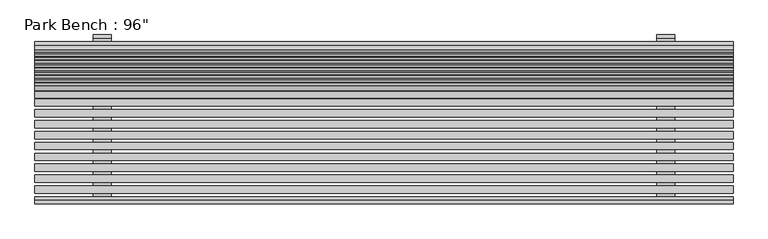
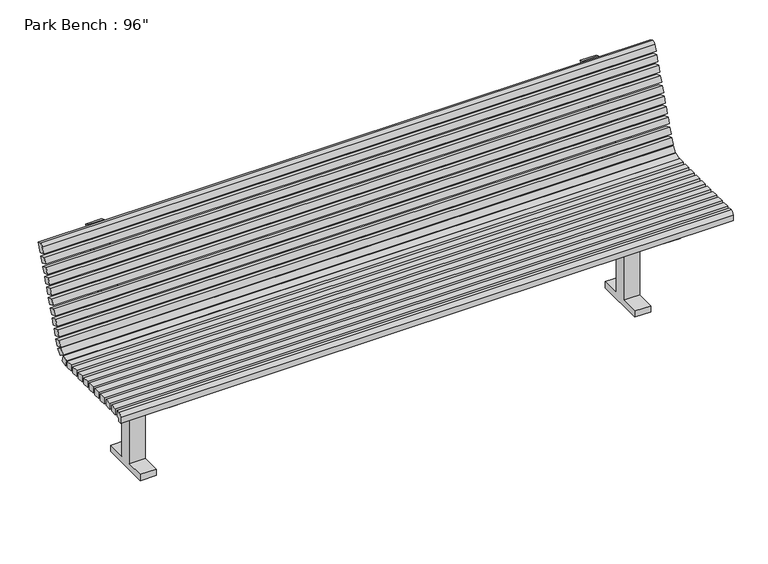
"""IFC4 building model written with IfcOpenShell, lengths in millimetres: geographic element geometry."""

from ifc_helpers import new_model, si_unit, point, frame, frame_2d, origin, place, context, project, spatial, polyline, circle_curve, trimmed, segment, composite_curve, outline, extrude, source, transform, mapped, element, save


def geographic_element_83f40e2b(model_context):
    return source(origin(), model_context, "Body", "SweptSolid", [
        extrude(outline(polyline([(1219.2, -255.4337104), (1219.2, -280.8337104), (-1219.2, -280.8337104), (-1219.2, -255.4337104), (1219.2, -255.4337104)])), frame((0.0, 0.0, 457.2), z_axis=(0.0, 0.0, 1.0), x_axis=(1.0, 0.0, 0.0)), (0.0, 0.0, 1.0), 25.4),
        extrude(outline(polyline([(1219.2, -217.3337104), (1219.2, -242.7337104), (-1219.2, -242.7337104), (-1219.2, -217.3337104), (1219.2, -217.3337104)])), frame((0.0, 0.0, 457.2), z_axis=(0.0, 0.0, 1.0), x_axis=(1.0, 0.0, 0.0)), (0.0, 0.0, 1.0), 25.4),
        extrude(outline(polyline([(1219.2, -179.2337104), (1219.2, -204.6337104), (-1219.2, -204.6337104), (-1219.2, -179.2337104), (1219.2, -179.2337104)])), frame((0.0, 0.0, 457.2), z_axis=(0.0, 0.0, 1.0), x_axis=(1.0, 0.0, 0.0)), (0.0, 0.0, 1.0), 25.4),
        extrude(outline(polyline([(1219.2, -141.1337104), (1219.2, -166.5337104), (-1219.2, -166.5337104), (-1219.2, -141.1337104), (1219.2, -141.1337104)])), frame((0.0, 0.0, 457.2), z_axis=(0.0, 0.0, 1.0), x_axis=(1.0, 0.0, 0.0)), (0.0, 0.0, 1.0), 25.4),
        extrude(outline(polyline([(1219.2, -103.0337104), (1219.2, -128.4337104), (-1219.2, -128.4337104), (-1219.2, -103.0337104), (1219.2, -103.0337104)])), frame((0.0, 0.0, 457.2), z_axis=(0.0, 0.0, 1.0), x_axis=(1.0, 0.0, 0.0)), (0.0, 0.0, 1.0), 25.4),
        extrude(outline(polyline([(1219.2, -64.9337104), (1219.2, -90.3337104), (-1219.2, -90.3337104), (-1219.2, -64.9337104), (1219.2, -64.9337104)])), frame((0.0, 0.0, 457.2), z_axis=(0.0, 0.0, 1.0), x_axis=(1.0, 0.0, 0.0)), (0.0, 0.0, 1.0), 25.4),
        extrude(outline(polyline([(1219.2, -26.8337104), (1219.2, -52.2337104), (-1219.2, -52.2337104), (-1219.2, -26.8337104), (1219.2, -26.8337104)])), frame((0.0, 0.0, 457.2), z_axis=(0.0, 0.0, 1.0), x_axis=(1.0, 0.0, 0.0)), (0.0, 0.0, 1.0), 25.4),
        extrude(outline(polyline([(1219.2, 11.2662896), (1219.2, -14.1337104), (-1219.2, -14.1337104), (-1219.2, 11.2662896), (1219.2, 11.2662896)])), frame((0.0, 0.0, 457.2), z_axis=(0.0, 0.0, 1.0), x_axis=(1.0, 0.0, 0.0)), (0.0, 0.0, 1.0), 25.4),
        extrude(outline(polyline([(1219.2, 49.3662896), (1219.2, 23.9662896), (-1219.2, 23.9662896), (-1219.2, 49.3662896), (1219.2, 49.3662896)])), frame((0.0, 0.0, 457.2), z_axis=(0.0, 0.0, 1.0), x_axis=(1.0, 0.0, 0.0)), (0.0, 0.0, 1.0), 25.4),
        extrude(outline(composite_curve([segment(polyline([(-304.8, 457.2), (-304.8, 444.5), (-318.9337104, 444.5), (-318.9337104, 468.3125)]), True, "CONTINUOUS"), segment(trimmed(circle_curve(frame_2d((-304.6462104, 468.3125)), 14.2875), [point((-318.9337104, 468.3125))], [point((-304.6462104, 482.6))], False, "CARTESIAN"), True, "CONTINUOUS"), segment(polyline([(-304.6462104, 482.6), (-293.5337104, 482.6), (-293.5337104, 457.2), (-304.8, 457.2)]), True, "CONTINUOUS")], self_intersect=False)), frame((-1219.2, 0.0, 0.0), z_axis=(1.0, 0.0, 0.0), x_axis=(0.0, 1.0, 0.0)), (0.0, 0.0, 1.0), 2438.4),
        extrude(outline(polyline([(0.0, -25.4), (0.0, 0.0), (2438.4, 0.0), (2438.4, -25.4), (0.0, -25.4)])), frame((1219.2, 121.2738625, 585.5181247), z_axis=(0.0, 0.342020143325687, 0.9396926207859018), x_axis=(-1.0, 0.0, 0.0)), (0.0, 0.0, 1.0), 25.4),
        extrude(outline(polyline([(0.0, -25.4), (0.0, 0.0), (2438.4, 0.0), (2438.4, -25.4), (0.0, -25.4)])), frame((1219.2, 134.30483, 621.3204136), z_axis=(0.0, 0.34202014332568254, 0.9396926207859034), x_axis=(-1.0, 0.0, 0.0)), (0.0, 0.0, 1.0), 25.4),
        extrude(outline(polyline([(0.0, -25.3999999), (0.0, 0.0), (2438.4, 0.0), (2438.4, -25.3999999), (0.0, -25.3999999)])), frame((1219.2, 95.2119276, 513.913547), z_axis=(0.0, 0.34202014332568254, 0.9396926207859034), x_axis=(-1.0, 0.0, 0.0)), (0.0, 0.0, 1.0), 25.4),
        extrude(outline(polyline([(0.0, -25.4000001), (0.0, 0.0), (2438.4, 0.0), (2438.4, -25.4000001), (0.0, -25.4000001)])), frame((1219.2, 108.242895, 549.7158359), z_axis=(0.0, 0.34202014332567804, 0.9396926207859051), x_axis=(-1.0, 0.0, 0.0)), (0.0, 0.0, 1.0), 25.4),
        extrude(outline(polyline([(0.0, -25.4), (0.0, 0.0), (2438.4, 0.0), (2438.4, -25.4), (0.0, -25.4)])), frame((1219.2, 173.3977323, 728.7272801), z_axis=(0.0, 0.34202014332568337, 0.9396926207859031), x_axis=(-1.0, 0.0, 0.0)), (0.0, 0.0, 1.0), 25.4),
        extrude(outline(polyline([(0.0, -25.4000001), (0.0, 0.0), (2438.4, 0.0), (2438.4, -25.4000001), (0.0, -25.4000001)])), frame((1219.2, 186.4286998, 764.529569), z_axis=(0.0, 0.3420201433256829, 0.9396926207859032), x_axis=(-1.0, 0.0, 0.0)), (0.0, 0.0, 1.0), 25.4),
        extrude(outline(polyline([(0.0, -25.4), (0.0, 0.0), (2438.4, 0.0), (2438.4, -25.4), (0.0, -25.4)])), frame((1219.2, 147.3357974, 657.1227024), z_axis=(0.0, 0.3420201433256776, 0.9396926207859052), x_axis=(-1.0, 0.0, 0.0)), (0.0, 0.0, 1.0), 25.4),
        extrude(outline(polyline([(0.0, -25.4), (0.0, 0.0), (2438.4, 0.0), (2438.4, -25.4), (0.0, -25.4)])), frame((1219.2, 160.3667649, 692.9249913), z_axis=(0.0, 0.34202014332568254, 0.9396926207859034), x_axis=(-1.0, 0.0, 0.0)), (0.0, 0.0, 1.0), 25.4),
        extrude(outline(polyline([(0.0, -25.3999999), (0.0, 0.0), (2438.4, 0.0), (2438.4, -25.3999999), (0.0, -25.3999999)])), frame((1219.2, 199.4596673, 800.3318578), z_axis=(0.0, 0.3420201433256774, 0.9396926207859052), x_axis=(-1.0, 0.0, 0.0)), (0.0, 0.0, 1.0), 25.4),
        extrude(outline(composite_curve([segment(polyline([(249.3897948, 863.2491239), (236.3588273, 827.4468351), (212.4906347, 836.1341467), (221.1779464, 860.0023393)]), True, "CONTINUOUS"), segment(trimmed(circle_curve(frame_2d((233.1120426, 855.6586834)), 12.7), [point((221.1779464, 860.0023393))], [point((237.4556985, 867.5927797))], False, "CARTESIAN"), True, "CONTINUOUS"), segment(polyline([(237.4556985, 867.5927797), (249.3897948, 863.2491239)]), True, "CONTINUOUS")], self_intersect=False)), frame((-1219.2, 0.0, 0.0), z_axis=(1.0, 0.0, 0.0), x_axis=(0.0, 1.0, 0.0)), (0.0, 0.0, 1.0), 2438.4),
        extrude(outline(polyline([(0.0, -25.4), (0.0, 0.0), (2438.4, 0.0), (2438.4, -25.4), (0.0, -25.4)])), frame((1219.2, 78.7855779, 490.7267336), z_axis=(0.0, 0.5735764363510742, 0.8191520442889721), x_axis=(-1.0, 0.0, 0.0)), (0.0, 0.0, 1.0), 25.4),
        extrude(outline(polyline([(0.0, -25.4), (0.0, 0.0), (2438.4, 0.0), (2438.4, -25.4), (0.0, -25.4)])), frame((1219.2, 59.0817015, 457.2297909), z_axis=(0.0, -0.2588190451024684, 0.9659258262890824), x_axis=(-1.0, 0.0, 0.0)), (0.0, 0.0, 1.0), 25.4),
        extrude(outline(composite_curve([segment(polyline([(-101.6, 25.4), (-25.4, 25.4), (-25.4, 431.8), (-304.8, 431.8), (-304.8, 457.2), (57.1368213, 457.2)]), True, "CONTINUOUS"), segment(trimmed(circle_curve(frame_2d((57.1368213, 520.7)), 63.5), [point((57.1368213, 457.2))], [point((116.8073027, 498.9817209))], True, "CARTESIAN"), True, "CONTINUOUS"), segment(polyline([(116.8073027, 498.9817209), (244.9406421, 851.0251774)]), True, "CONTINUOUS"), segment(trimmed(circle_curve(frame_2d((256.8747384, 846.6815216)), 12.7), [point((244.9406421, 851.0251774))], [point((261.2183942, 858.6156178))], False, "CARTESIAN"), True, "CONTINUOUS"), segment(polyline([(261.2183942, 858.6156178), (273.1524905, 854.271962), (140.6754953, 490.2944093)]), True, "CONTINUOUS"), segment(trimmed(circle_curve(frame_2d((57.1368213, 520.7)), 88.9), [point((140.6754953, 490.2944093))], [point((57.1368213, 431.8))], False, "CARTESIAN"), True, "CONTINUOUS"), segment(polyline([(57.1368213, 431.8), (25.4, 431.8), (25.4, 25.4), (101.6, 25.4), (101.6, 0.0), (-101.6, 0.0), (-101.6, 25.4)]), True, "CONTINUOUS")], self_intersect=False)), frame((953.1736591, 0.0, 0.0), z_axis=(1.0, 0.0, 0.0), x_axis=(0.0, 1.0, 0.0)), (0.0, 0.0, 1.0), 62.8263409),
        extrude(outline(composite_curve([segment(polyline([(-101.6, 25.4), (-25.4, 25.4), (-25.4, 431.8), (-304.8, 431.8), (-304.8, 457.2), (57.1368213, 457.2)]), True, "CONTINUOUS"), segment(trimmed(circle_curve(frame_2d((57.1368213, 520.7)), 63.5), [point((57.1368213, 457.2))], [point((116.8073027, 498.9817209))], True, "CARTESIAN"), True, "CONTINUOUS"), segment(polyline([(116.8073027, 498.9817209), (244.9406421, 851.0251774)]), True, "CONTINUOUS"), segment(trimmed(circle_curve(frame_2d((256.8747384, 846.6815216)), 12.7), [point((244.9406421, 851.0251774))], [point((261.2183942, 858.6156178))], False, "CARTESIAN"), True, "CONTINUOUS"), segment(polyline([(261.2183942, 858.6156178), (273.1524905, 854.271962), (140.6754953, 490.2944093)]), True, "CONTINUOUS"), segment(trimmed(circle_curve(frame_2d((57.1368213, 520.7)), 88.9), [point((140.6754953, 490.2944093))], [point((57.1368213, 431.8))], False, "CARTESIAN"), True, "CONTINUOUS"), segment(polyline([(57.1368213, 431.8), (25.4, 431.8), (25.4, 25.4), (101.6, 25.4), (101.6, 0.0), (-101.6, 0.0), (-101.6, 25.4)]), True, "CONTINUOUS")], self_intersect=False)), frame((-1016.0, 0.0, 0.0), z_axis=(1.0, 0.0, 0.0), x_axis=(0.0, 1.0, 0.0)), (0.0, 0.0, 1.0), 63.8916859),
    ])


if __name__ == "__main__":
    model = new_model("IFC4")
    model_context = context("Model", 3, world=origin())
    ifc_project = project(units=[si_unit("LENGTHUNIT", "METRE", prefix="MILLI")], contexts=[model_context])
    site = spatial("IfcSite", under=ifc_project)
    building = spatial("IfcBuilding", under=site)
    placement = place(None, origin())
    geographic_element_shape = geographic_element_83f40e2b(model_context)
    element("IfcGeographicElement", 1, ObjectType="Park Bench : 96\"", at=placement, inside=building, context=model_context, shape_type="MappedRepresentation", body=[
        mapped(geographic_element_shape, transform((0.0, 0.0, 0.0), x_axis=(1.0, 0.0, 0.0), y_axis=(0.0, 1.0, 0.0), z_axis=(0.0, 0.0, 1.0))),
    ])
    save(model, "model.ifc")
